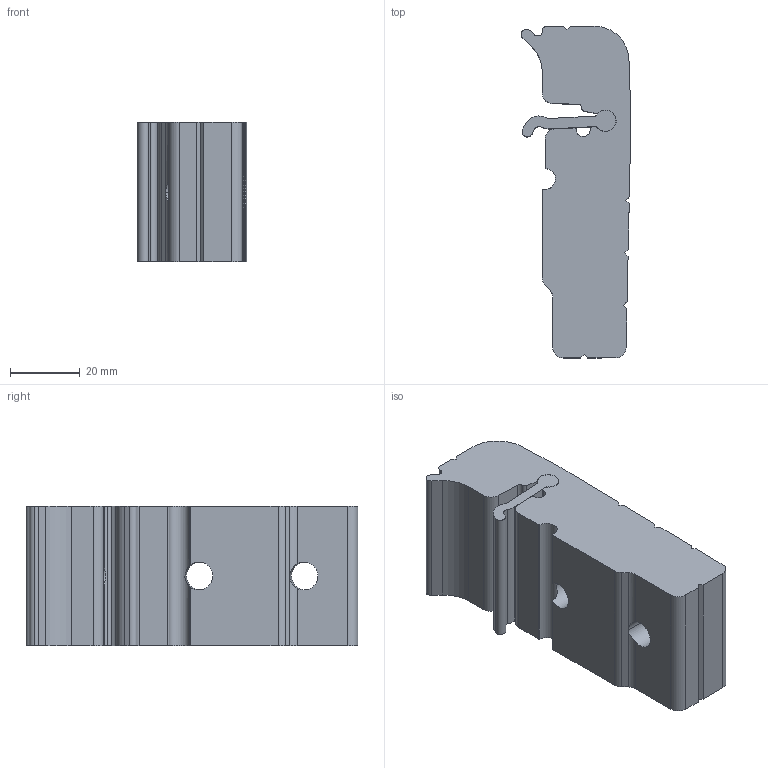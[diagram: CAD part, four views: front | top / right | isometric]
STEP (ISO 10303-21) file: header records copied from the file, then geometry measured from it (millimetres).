
FILE_DESCRIPTION (( 'STEP AP214' ), '1' );
FILE_NAME ('R2 SL32-SL40.step', '2017-04-05T08:05:32', ( '' ), ( '' ), 'SwSTEP 2.0', 'SolidWorks 2015', '' );
FILE_SCHEMA (( 'AUTOMOTIVE_DESIGN' ));
Length unit declared in the file: millimetre
Products named in the file (1): R2 SL32-SL40
Bounding box: 31.33 x 94.82 x 40 mm (x, y, z)
Volume: 84930 mm3; surface area: 19740.6 mm2
Topology: 2 solids, 2 shells, 96 faces, 286 edges, 188 vertices
Faces by surface type: plane 46, cylinder 42, cone 8
Entity records: 3378 total; most frequent: CARTESIAN_POINT 747, ORIENTED_EDGE 572, DIRECTION 534, EDGE_CURVE 286, VERTEX_POINT 188, AXIS2_PLACEMENT_3D 185, VECTOR 164, LINE 164
